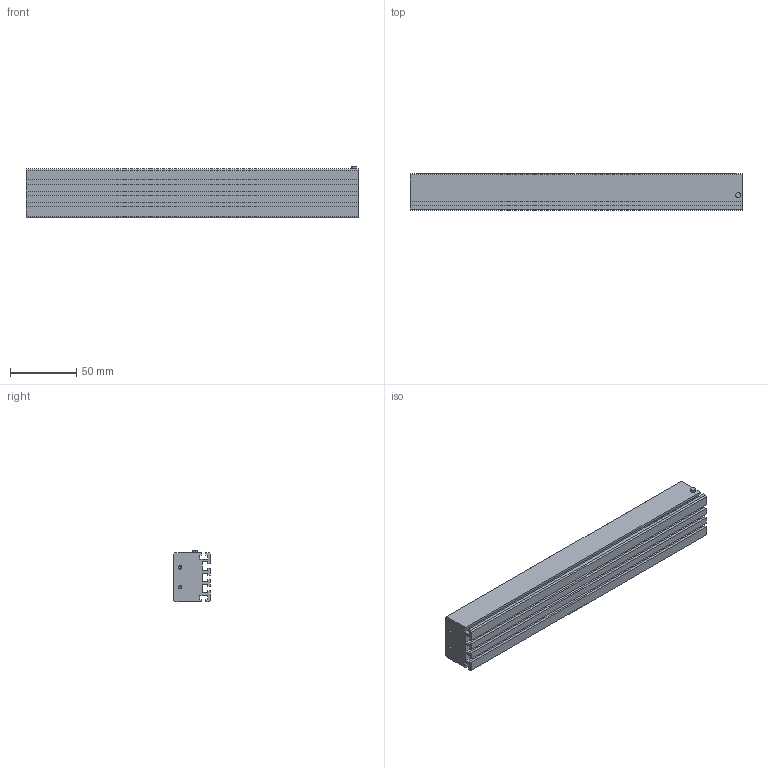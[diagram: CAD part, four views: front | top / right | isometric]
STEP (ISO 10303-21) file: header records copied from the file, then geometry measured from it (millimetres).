
FILE_DESCRIPTION (( 'STEP AP203' ), '1' );
FILE_NAME ('LRD-B6-250.STEP', '2022-08-25T05:32:38', ( 'TNT' ), ( '' ), 'SwSTEP 2.0', 'SolidWorks 2018', '' );
FILE_SCHEMA (( 'CONFIG_CONTROL_DESIGN' ));
Length unit declared in the file: millimetre
Products named in the file (1): LRD-B6-250
Bounding box: 250 x 27.7 x 39.1 mm (x, y, z)
Volume: 212561.5 mm3; surface area: 55669.3 mm2
Topology: 1 solids, 1 shells, 74 faces, 202 edges, 128 vertices
Faces by surface type: plane 56, cylinder 10, cone 8
Entity records: 2323 total; most frequent: CARTESIAN_POINT 397, ORIENTED_EDGE 388, DIRECTION 364, EDGE_CURVE 194, LINE 174, VECTOR 174, VERTEX_POINT 128, AXIS2_PLACEMENT_3D 95
